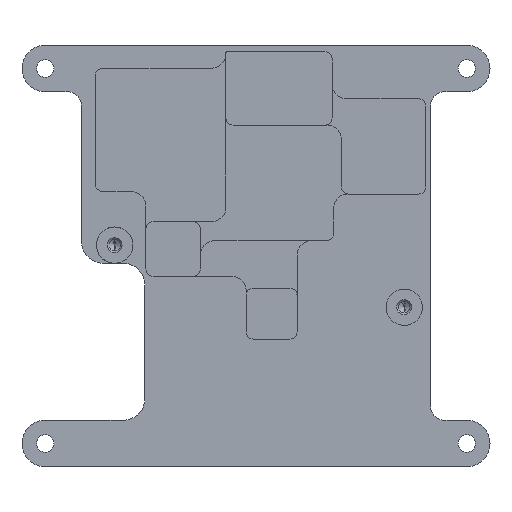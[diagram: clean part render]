
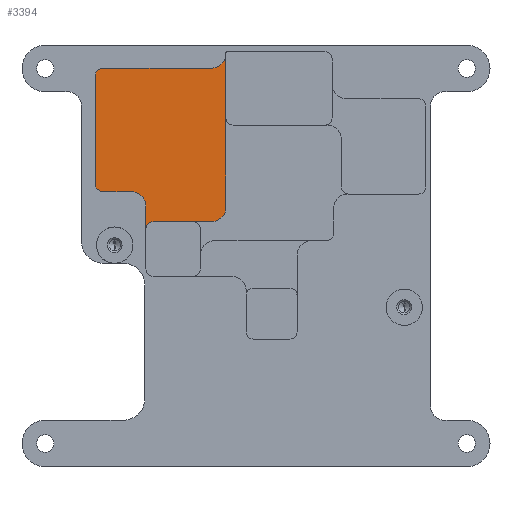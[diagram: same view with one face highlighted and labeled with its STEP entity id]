
A CAD part, front view. The second image highlights one B-rep face of the part: STEP entity #3394.
In plain terms, the highlighted planar face has unit normal (0, -1, 0).
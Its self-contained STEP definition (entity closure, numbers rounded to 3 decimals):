
#22 = LINE ( 'NONE', #4984, #1036 ) ;
#54 = DIRECTION ( 'NONE',  ( 0., 0., 1. ) ) ;
#90 = DIRECTION ( 'NONE',  ( 0., 0., 1. ) ) ;
#188 = EDGE_CURVE ( 'NONE', #1902, #5232, #22, .T. ) ;
#296 = VECTOR ( 'NONE', #4254, 1000. ) ;
#311 = CARTESIAN_POINT ( 'NONE',  ( -5.634, 11.629, 5.229 ) ) ;
#326 = CARTESIAN_POINT ( 'NONE',  ( -14.65, 11.629, 4.229 ) ) ;
#329 = VERTEX_POINT ( 'NONE', #1022 ) ;
#343 = AXIS2_PLACEMENT_3D ( 'NONE', #4945, #3244, #4013 ) ;
#357 = VECTOR ( 'NONE', #5209, 1000. ) ;
#413 = EDGE_CURVE ( 'NONE', #2188, #2994, #3792, .T. ) ;
#417 = VERTEX_POINT ( 'NONE', #311 ) ;
#540 = DIRECTION ( 'NONE',  ( 0., 0., 1. ) ) ;
#543 = VECTOR ( 'NONE', #4096, 1000. ) ;
#588 = EDGE_CURVE ( 'NONE', #3630, #329, #5061, .T. ) ;
#665 = LINE ( 'NONE', #2306, #543 ) ;
#686 = DIRECTION ( 'NONE',  ( 0., 1., 0. ) ) ;
#830 = CARTESIAN_POINT ( 'NONE',  ( -5.634, 11.629, 26.349 ) ) ;
#832 = CARTESIAN_POINT ( 'NONE',  ( -3.634, 11.629, 7.229 ) ) ;
#833 = CARTESIAN_POINT ( 'NONE',  ( -13.65, 11.629, 5.229 ) ) ;
#975 = VERTEX_POINT ( 'NONE', #4784 ) ;
#978 = EDGE_CURVE ( 'NONE', #417, #2188, #665, .T. ) ;
#982 = VERTEX_POINT ( 'NONE', #832 ) ;
#1022 = CARTESIAN_POINT ( 'NONE',  ( -20.598, 11.629, 9.349 ) ) ;
#1028 = ORIENTED_EDGE ( 'NONE', *, *, #2700, .T. ) ;
#1036 = VECTOR ( 'NONE', #2585, 1000. ) ;
#1063 = LINE ( 'NONE', #4361, #357 ) ;
#1133 = AXIS2_PLACEMENT_3D ( 'NONE', #1721, #1400, #54 ) ;
#1220 = AXIS2_PLACEMENT_3D ( 'NONE', #2483, #1267, #2976 ) ;
#1267 = DIRECTION ( 'NONE',  ( 0., -1., 0. ) ) ;
#1400 = DIRECTION ( 'NONE',  ( 0., -1., 0. ) ) ;
#1721 = CARTESIAN_POINT ( 'NONE',  ( -20.598, 11.629, 25.349 ) ) ;
#1813 = AXIS2_PLACEMENT_3D ( 'NONE', #3061, #3439, #540 ) ;
#1814 = EDGE_LOOP ( 'NONE', ( #2555, #3742, #1028, #2987, #1865, #4646, #2468, #4439, #5359, #4819, #5315, #4715 ) ) ;
#1843 = VECTOR ( 'NONE', #90, 1000. ) ;
#1865 = ORIENTED_EDGE ( 'NONE', *, *, #188, .F. ) ;
#1880 = CARTESIAN_POINT ( 'NONE',  ( -3.634, 11.629, 28.349 ) ) ;
#1902 = VERTEX_POINT ( 'NONE', #5110 ) ;
#1922 = CARTESIAN_POINT ( 'NONE',  ( -21.598, 11.629, 10.349 ) ) ;
#2000 = AXIS2_PLACEMENT_3D ( 'NONE', #4429, #4839, #2310 ) ;
#2042 = DIRECTION ( 'NONE',  ( 0., -1., 0. ) ) ;
#2169 = LINE ( 'NONE', #3765, #1843 ) ;
#2188 = VERTEX_POINT ( 'NONE', #833 ) ;
#2241 = DIRECTION ( 'NONE',  ( 0., 0., 1. ) ) ;
#2250 = CIRCLE ( 'NONE', #1133, 1. ) ;
#2306 = CARTESIAN_POINT ( 'NONE',  ( -21.598, 11.629, 5.229 ) ) ;
#2310 = DIRECTION ( 'NONE',  ( 0., 0., 1. ) ) ;
#2395 = DIRECTION ( 'NONE',  ( 0., 0., 1. ) ) ;
#2468 = ORIENTED_EDGE ( 'NONE', *, *, #3491, .F. ) ;
#2483 = CARTESIAN_POINT ( 'NONE',  ( -5.634, 11.629, 7.229 ) ) ;
#2542 = CARTESIAN_POINT ( 'NONE',  ( -14.65, 11.629, 7.349 ) ) ;
#2547 = LINE ( 'NONE', #3759, #296 ) ;
#2555 = ORIENTED_EDGE ( 'NONE', *, *, #978, .F. ) ;
#2585 = DIRECTION ( 'NONE',  ( 1., 0., 0. ) ) ;
#2684 = CIRCLE ( 'NONE', #1220, 2. ) ;
#2700 = EDGE_CURVE ( 'NONE', #982, #3205, #2962, .T. ) ;
#2742 = PLANE ( 'NONE',  #4443 ) ;
#2905 = EDGE_CURVE ( 'NONE', #2994, #4259, #1063, .T. ) ;
#2958 = CIRCLE ( 'NONE', #2000, 2. ) ;
#2962 = LINE ( 'NONE', #5045, #3043 ) ;
#2976 = DIRECTION ( 'NONE',  ( 0., 0., 1. ) ) ;
#2987 = ORIENTED_EDGE ( 'NONE', *, *, #4280, .T. ) ;
#2994 = VERTEX_POINT ( 'NONE', #326 ) ;
#3043 = VECTOR ( 'NONE', #2241, 1000. ) ;
#3061 = CARTESIAN_POINT ( 'NONE',  ( -5.634, 11.629, 28.349 ) ) ;
#3071 = EDGE_CURVE ( 'NONE', #1902, #975, #2250, .T. ) ;
#3180 = DIRECTION ( 'NONE',  ( 0., 0., 1. ) ) ;
#3205 = VERTEX_POINT ( 'NONE', #1880 ) ;
#3244 = DIRECTION ( 'NONE',  ( 0., -1., 0. ) ) ;
#3394 = ADVANCED_FACE ( 'NONE', ( #4859 ), #2742, .F. ) ;
#3439 = DIRECTION ( 'NONE',  ( 0., 1., 0. ) ) ;
#3491 = EDGE_CURVE ( 'NONE', #3630, #975, #2169, .T. ) ;
#3630 = VERTEX_POINT ( 'NONE', #1922 ) ;
#3742 = ORIENTED_EDGE ( 'NONE', *, *, #4454, .T. ) ;
#3752 = AXIS2_PLACEMENT_3D ( 'NONE', #4871, #2042, #2395 ) ;
#3759 = CARTESIAN_POINT ( 'NONE',  ( -21.598, 11.629, 9.349 ) ) ;
#3765 = CARTESIAN_POINT ( 'NONE',  ( -21.598, 11.629, 26.349 ) ) ;
#3792 = CIRCLE ( 'NONE', #343, 1. ) ;
#3799 = CIRCLE ( 'NONE', #1813, 2. ) ;
#3862 = VERTEX_POINT ( 'NONE', #4656 ) ;
#3869 = EDGE_CURVE ( 'NONE', #3862, #329, #2547, .T. ) ;
#4013 = DIRECTION ( 'NONE',  ( 0., 0., 1. ) ) ;
#4096 = DIRECTION ( 'NONE',  ( -1., 0., 0. ) ) ;
#4254 = DIRECTION ( 'NONE',  ( -1., 0., 0. ) ) ;
#4259 = VERTEX_POINT ( 'NONE', #2542 ) ;
#4280 = EDGE_CURVE ( 'NONE', #3205, #5232, #3799, .T. ) ;
#4361 = CARTESIAN_POINT ( 'NONE',  ( -14.65, 11.629, 5.229 ) ) ;
#4395 = CARTESIAN_POINT ( 'NONE',  ( -21.598, 11.629, 9.349 ) ) ;
#4429 = CARTESIAN_POINT ( 'NONE',  ( -16.65, 11.629, 7.349 ) ) ;
#4439 = ORIENTED_EDGE ( 'NONE', *, *, #588, .T. ) ;
#4443 = AXIS2_PLACEMENT_3D ( 'NONE', #4395, #686, #3180 ) ;
#4454 = EDGE_CURVE ( 'NONE', #417, #982, #2684, .T. ) ;
#4646 = ORIENTED_EDGE ( 'NONE', *, *, #3071, .T. ) ;
#4656 = CARTESIAN_POINT ( 'NONE',  ( -16.65, 11.629, 9.349 ) ) ;
#4715 = ORIENTED_EDGE ( 'NONE', *, *, #413, .F. ) ;
#4753 = EDGE_CURVE ( 'NONE', #3862, #4259, #2958, .T. ) ;
#4784 = CARTESIAN_POINT ( 'NONE',  ( -21.598, 11.629, 25.349 ) ) ;
#4819 = ORIENTED_EDGE ( 'NONE', *, *, #4753, .T. ) ;
#4839 = DIRECTION ( 'NONE',  ( 0., 1., 0. ) ) ;
#4859 = FACE_OUTER_BOUND ( 'NONE', #1814, .T. ) ;
#4871 = CARTESIAN_POINT ( 'NONE',  ( -20.598, 11.629, 10.349 ) ) ;
#4945 = CARTESIAN_POINT ( 'NONE',  ( -13.65, 11.629, 4.229 ) ) ;
#4984 = CARTESIAN_POINT ( 'NONE',  ( -4.598, 11.629, 26.349 ) ) ;
#5045 = CARTESIAN_POINT ( 'NONE',  ( -3.634, 11.629, 28.614 ) ) ;
#5061 = CIRCLE ( 'NONE', #3752, 1. ) ;
#5110 = CARTESIAN_POINT ( 'NONE',  ( -20.598, 11.629, 26.349 ) ) ;
#5209 = DIRECTION ( 'NONE',  ( 0., 0., 1. ) ) ;
#5232 = VERTEX_POINT ( 'NONE', #830 ) ;
#5315 = ORIENTED_EDGE ( 'NONE', *, *, #2905, .F. ) ;
#5359 = ORIENTED_EDGE ( 'NONE', *, *, #3869, .F. ) ;
